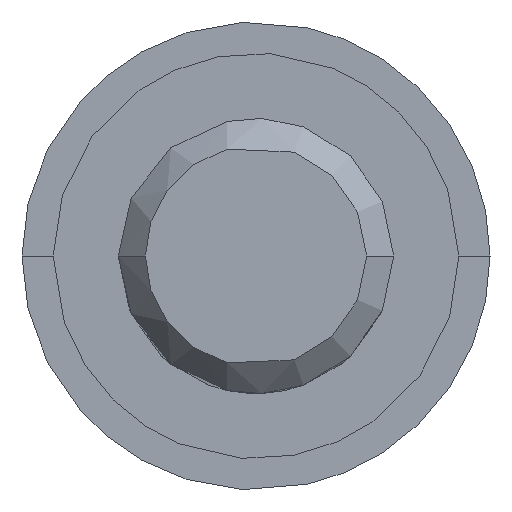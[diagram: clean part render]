
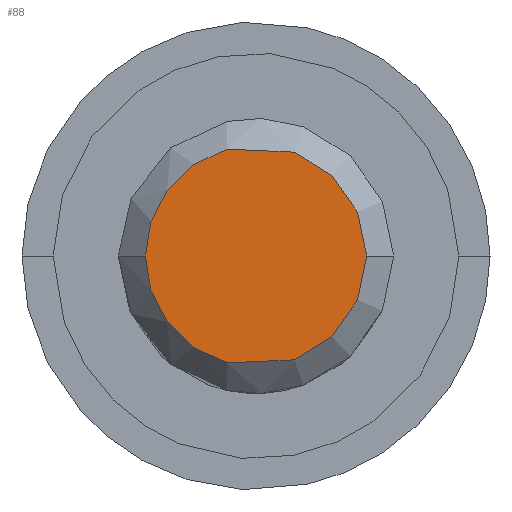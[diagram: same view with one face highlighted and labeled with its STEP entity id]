
A CAD part, left-side view. The second image highlights one B-rep face of the part: STEP entity #88.
In plain terms, the highlighted planar face has unit normal (-1, 0, 0) as drawn and (1, 0, 0) by its records, which use the part's own axes.
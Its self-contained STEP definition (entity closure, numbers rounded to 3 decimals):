
#88=ADVANCED_FACE('',(#138),#1480,.T.);
#138=FACE_OUTER_BOUND('',#190,.T.);
#190=EDGE_LOOP('',(#385,#386));
#385=ORIENTED_EDGE('',*,*,#1093,.F.);
#386=ORIENTED_EDGE('',*,*,#1129,.T.);
#456=(
BOUNDED_CURVE()
B_SPLINE_CURVE(2,(#2537,#2538,#2539,#2540,#2541),.UNSPECIFIED.,.F.,.F.)
B_SPLINE_CURVE_WITH_KNOTS((3,2,3),(0.,3.157,6.313),
 .UNSPECIFIED.)
CURVE()
GEOMETRIC_REPRESENTATION_ITEM()
RATIONAL_B_SPLINE_CURVE((1.,0.707,1.,0.707,1.))
REPRESENTATION_ITEM('')
);
#473=(
BOUNDED_CURVE()
B_SPLINE_CURVE(2,(#2758,#2759,#2760,#2761,#2762),.UNSPECIFIED.,.F.,.F.)
B_SPLINE_CURVE_WITH_KNOTS((3,2,3),(0.,3.157,6.313),
 .UNSPECIFIED.)
CURVE()
GEOMETRIC_REPRESENTATION_ITEM()
RATIONAL_B_SPLINE_CURVE((1.,0.707,1.,0.707,1.))
REPRESENTATION_ITEM('')
);
#474=(
BOUNDED_CURVE()
B_SPLINE_CURVE(2,(#2763,#2764,#2765,#2766,#2767),.UNSPECIFIED.,.F.,.F.)
B_SPLINE_CURVE_WITH_KNOTS((3,2,3),(-6.313,-3.157,0.),
 .UNSPECIFIED.)
CURVE()
GEOMETRIC_REPRESENTATION_ITEM()
RATIONAL_B_SPLINE_CURVE((1.,0.707,1.,0.707,1.))
REPRESENTATION_ITEM('')
);
#475=(
BOUNDED_CURVE()
B_SPLINE_CURVE(2,(#2768,#2769,#2770,#2771,#2772),.UNSPECIFIED.,.F.,.F.)
B_SPLINE_CURVE_WITH_KNOTS((3,2,3),(-6.313,-3.157,0.),
 .UNSPECIFIED.)
CURVE()
GEOMETRIC_REPRESENTATION_ITEM()
RATIONAL_B_SPLINE_CURVE((1.,0.707,1.,0.707,1.))
REPRESENTATION_ITEM('')
);
#608=PCURVE('',#1496,#824);
#673=PCURVE('',#1480,#889);
#674=PCURVE('',#1480,#890);
#678=PCURVE('',#1499,#894);
#824=DEFINITIONAL_REPRESENTATION('',(#1281),#2874);
#889=DEFINITIONAL_REPRESENTATION('',(#473),#2874);
#890=DEFINITIONAL_REPRESENTATION('',(#475),#2874);
#894=DEFINITIONAL_REPRESENTATION('',(#1368),#2874);
#985=SURFACE_CURVE('',#456,(#608,#673),.PCURVE_S1.);
#1021=SURFACE_CURVE('',#474,(#674,#678),.PCURVE_S1.);
#1093=EDGE_CURVE('',#1430,#1431,#985,.T.);
#1129=EDGE_CURVE('',#1430,#1431,#1021,.T.);
#1281=B_SPLINE_CURVE_WITH_KNOTS('',1,(#2542,#2543),.UNSPECIFIED.,.F.,.F.,
(2,2),(0.,6.313),.UNSPECIFIED.);
#1368=B_SPLINE_CURVE_WITH_KNOTS('',1,(#2784,#2785),.UNSPECIFIED.,.F.,.F.,
(2,2),(-6.313,0.),.UNSPECIFIED.);
#1430=VERTEX_POINT('',#2449);
#1431=VERTEX_POINT('',#2450);
#1480=PLANE('',#1571);
#1496=(
BOUNDED_SURFACE()
B_SPLINE_SURFACE(2,1,((#2298,#2299),(#2300,#2301),(#2302,#2303),(#2304,#2305),
(#2306,#2307),(#2308,#2309),(#2310,#2311),(#2312,#2313),(#2314,#2315)),
 .UNSPECIFIED.,.T.,.F.,.F.)
B_SPLINE_SURFACE_WITH_KNOTS((3,2,2,2,3),(2,2),(0.,1.571,3.142,
4.712,6.283),(0.,3.891),.UNSPECIFIED.)
GEOMETRIC_REPRESENTATION_ITEM()
RATIONAL_B_SPLINE_SURFACE(((1.,1.),(0.707,0.707),
(1.,1.),(0.707,0.707),(1.,1.),(0.707,
0.707),(1.,1.),(0.707,0.707),(1.,1.)))
REPRESENTATION_ITEM('')
SURFACE()
);
#1499=(
BOUNDED_SURFACE()
B_SPLINE_SURFACE(2,1,((#2365,#2366),(#2367,#2368),(#2369,#2370),(#2371,#2372),
(#2373,#2374),(#2375,#2376),(#2377,#2378),(#2379,#2380),(#2381,#2382)),
 .UNSPECIFIED.,.T.,.F.,.F.)
B_SPLINE_SURFACE_WITH_KNOTS((3,2,2,2,3),(2,2),(0.,1.571,3.142,
4.712,6.283),(0.,3.891),.UNSPECIFIED.)
GEOMETRIC_REPRESENTATION_ITEM()
RATIONAL_B_SPLINE_SURFACE(((1.,1.),(0.707,0.707),
(1.,1.),(0.707,0.707),(1.,1.),(0.707,
0.707),(1.,1.),(0.707,0.707),(1.,1.)))
REPRESENTATION_ITEM('')
SURFACE()
);
#1571=AXIS2_PLACEMENT_3D('',#2364,#1607,$);
#1607=DIRECTION('',(1.,0.,0.));
#2298=CARTESIAN_POINT('',(27.01,0.,0.));
#2299=CARTESIAN_POINT('',(24.258,0.,2.751));
#2300=CARTESIAN_POINT('',(27.01,0.,0.));
#2301=CARTESIAN_POINT('',(24.258,2.751,2.751));
#2302=CARTESIAN_POINT('',(27.01,0.,0.));
#2303=CARTESIAN_POINT('',(24.258,2.751,0.));
#2304=CARTESIAN_POINT('',(27.01,0.,0.));
#2305=CARTESIAN_POINT('',(24.258,2.751,-2.751));
#2306=CARTESIAN_POINT('',(27.01,0.,0.));
#2307=CARTESIAN_POINT('',(24.258,0.,-2.751));
#2308=CARTESIAN_POINT('',(27.01,0.,0.));
#2309=CARTESIAN_POINT('',(24.258,-2.751,-2.751));
#2310=CARTESIAN_POINT('',(27.01,0.,0.));
#2311=CARTESIAN_POINT('',(24.258,-2.751,0.));
#2312=CARTESIAN_POINT('',(27.01,0.,0.));
#2313=CARTESIAN_POINT('',(24.258,-2.751,2.751));
#2314=CARTESIAN_POINT('',(27.01,0.,0.));
#2315=CARTESIAN_POINT('',(24.258,0.,2.751));
#2364=CARTESIAN_POINT('',(25.,2.413,2.413));
#2365=CARTESIAN_POINT('',(27.01,0.,0.));
#2366=CARTESIAN_POINT('',(24.258,0.,-2.751));
#2367=CARTESIAN_POINT('',(27.01,0.,0.));
#2368=CARTESIAN_POINT('',(24.258,-2.751,-2.751));
#2369=CARTESIAN_POINT('',(27.01,0.,0.));
#2370=CARTESIAN_POINT('',(24.258,-2.751,0.));
#2371=CARTESIAN_POINT('',(27.01,0.,0.));
#2372=CARTESIAN_POINT('',(24.258,-2.751,2.751));
#2373=CARTESIAN_POINT('',(27.01,0.,0.));
#2374=CARTESIAN_POINT('',(24.258,0.,2.751));
#2375=CARTESIAN_POINT('',(27.01,0.,0.));
#2376=CARTESIAN_POINT('',(24.258,2.751,2.751));
#2377=CARTESIAN_POINT('',(27.01,0.,0.));
#2378=CARTESIAN_POINT('',(24.258,2.751,0.));
#2379=CARTESIAN_POINT('',(27.01,0.,0.));
#2380=CARTESIAN_POINT('',(24.258,2.751,-2.751));
#2381=CARTESIAN_POINT('',(27.01,0.,0.));
#2382=CARTESIAN_POINT('',(24.258,0.,-2.751));
#2449=CARTESIAN_POINT('',(25.,2.01,0.));
#2450=CARTESIAN_POINT('',(25.,-2.01,0.));
#2537=CARTESIAN_POINT('',(25.,2.01,0.));
#2538=CARTESIAN_POINT('',(25.,2.01,-2.01));
#2539=CARTESIAN_POINT('',(25.,0.,-2.01));
#2540=CARTESIAN_POINT('',(25.,-2.01,-2.01));
#2541=CARTESIAN_POINT('',(25.,-2.01,0.));
#2542=CARTESIAN_POINT('',(1.571,2.842));
#2543=CARTESIAN_POINT('',(4.712,2.842));
#2758=CARTESIAN_POINT('',(-1.005,0.));
#2759=CARTESIAN_POINT('',(-1.005,2.01));
#2760=CARTESIAN_POINT('',(1.005,2.01));
#2761=CARTESIAN_POINT('',(3.014,2.01));
#2762=CARTESIAN_POINT('',(3.014,0.));
#2763=CARTESIAN_POINT('',(25.,2.01,0.));
#2764=CARTESIAN_POINT('',(25.,2.01,2.01));
#2765=CARTESIAN_POINT('',(25.,0.,2.01));
#2766=CARTESIAN_POINT('',(25.,-2.01,2.01));
#2767=CARTESIAN_POINT('',(25.,-2.01,0.));
#2768=CARTESIAN_POINT('',(-1.005,0.));
#2769=CARTESIAN_POINT('',(-1.005,-2.01));
#2770=CARTESIAN_POINT('',(1.005,-2.01));
#2771=CARTESIAN_POINT('',(3.014,-2.01));
#2772=CARTESIAN_POINT('',(3.014,0.));
#2784=CARTESIAN_POINT('',(4.712,2.842));
#2785=CARTESIAN_POINT('',(1.571,2.842));
#2874=(
GEOMETRIC_REPRESENTATION_CONTEXT(2)
PARAMETRIC_REPRESENTATION_CONTEXT()
REPRESENTATION_CONTEXT('pspace','')
);
